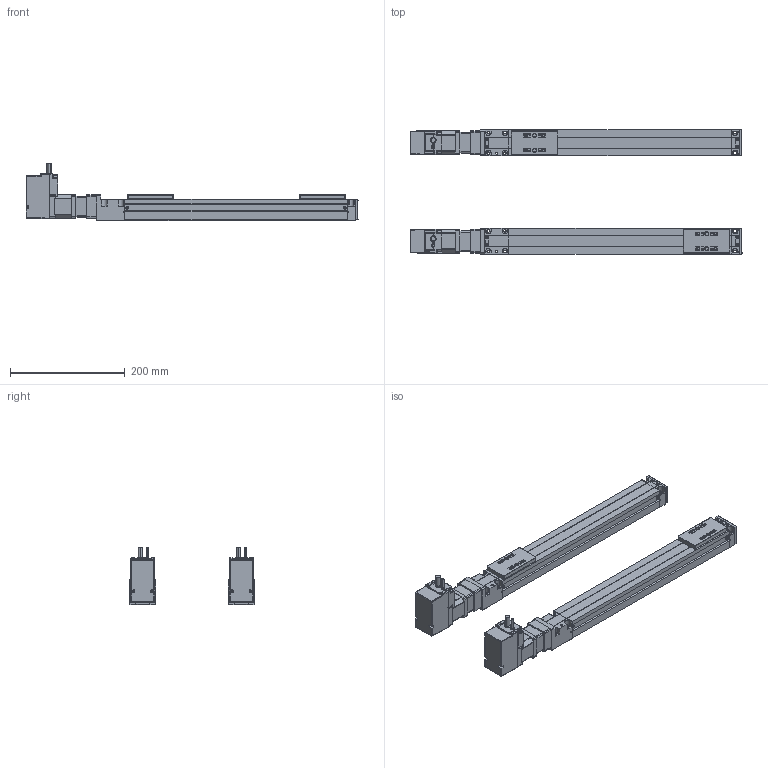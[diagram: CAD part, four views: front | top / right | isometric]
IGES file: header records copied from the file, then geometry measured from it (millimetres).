
Start section: IMSI TurboCAD v14.0
Global section: author: NULL; organization: NULL; date: 20110316.100301; units: millimetre
Bounding box: 578.67 x 216.56 x 100.06 mm (x, y, z)
Surface area: 431691.2 mm2 (no closed solid volume)
Topology: 0 solids, 0 shells, 4173 faces, 22406 edges, 22334 vertices
Faces by surface type: revolution 2020, extrusion 1957, bspline 196
